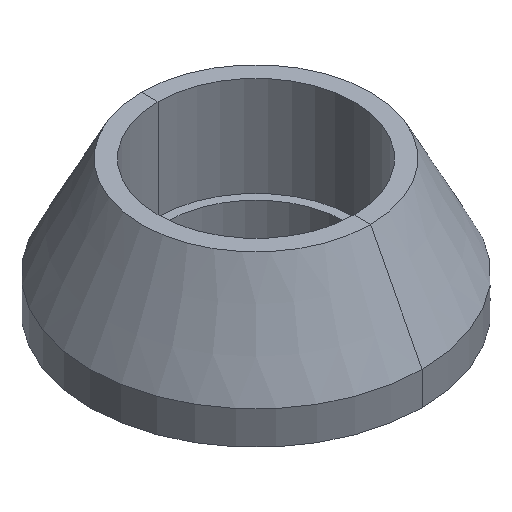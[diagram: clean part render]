
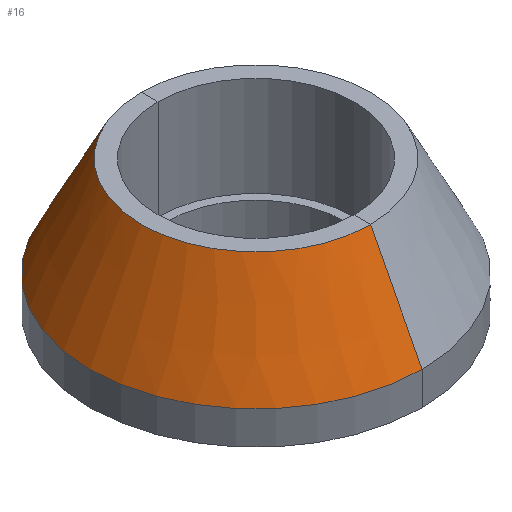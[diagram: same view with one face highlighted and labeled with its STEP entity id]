
A CAD part, isometric view. The second image highlights one B-rep face of the part: STEP entity #16.
In plain terms, the highlighted free-form (B-spline) face has degree [3, 2] with [4, 5] control points.
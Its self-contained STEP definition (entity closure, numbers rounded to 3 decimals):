
#16=ADVANCED_FACE('',(#28),#188,.T.);
#28=FACE_OUTER_BOUND('',#40,.T.);
#40=EDGE_LOOP('',(#54,#55,#56,#57));
#54=ORIENTED_EDGE('',*,*,#114,.T.);
#55=ORIENTED_EDGE('',*,*,#115,.T.);
#56=ORIENTED_EDGE('',*,*,#102,.F.);
#57=ORIENTED_EDGE('',*,*,#104,.T.);
#102=EDGE_CURVE('',#164,#165,#154,.T.);
#104=EDGE_CURVE('',#164,#171,#127,.T.);
#114=EDGE_CURVE('',#171,#172,#159,.T.);
#115=EDGE_CURVE('',#172,#165,#133,.T.);
#127=TRIMMED_CURVE($,#141,(#418),(#419),.T.,.CARTESIAN.);
#133=TRIMMED_CURVE($,#147,(#450),(#451),.T.,.CARTESIAN.);
#141=CIRCLE('',#289,3.45);
#147=CIRCLE('',#295,5.);
#154=(
BOUNDED_CURVE()
B_SPLINE_CURVE(3,(#410,#411,#412,#413),.UNSPECIFIED.,.F.,.F.)
B_SPLINE_CURVE_WITH_KNOTS((4,4),(0.,3.716),.UNSPECIFIED.)
CURVE()
GEOMETRIC_REPRESENTATION_ITEM()
RATIONAL_B_SPLINE_CURVE((1.,1.,1.,1.))
REPRESENTATION_ITEM('')
);
#159=(
BOUNDED_CURVE()
B_SPLINE_CURVE(3,(#445,#446,#447,#448),.UNSPECIFIED.,.F.,.F.)
B_SPLINE_CURVE_WITH_KNOTS((4,4),(0.,3.716),.UNSPECIFIED.)
CURVE()
GEOMETRIC_REPRESENTATION_ITEM()
RATIONAL_B_SPLINE_CURVE((1.,1.,1.,1.))
REPRESENTATION_ITEM('')
);
#164=VERTEX_POINT('',#396);
#165=VERTEX_POINT('',#397);
#171=VERTEX_POINT('',#403);
#172=VERTEX_POINT('',#404);
#188=(
BOUNDED_SURFACE()
B_SPLINE_SURFACE(3,2,((#346,#347,#348,#349,#350),(#351,#352,#353,#354,#355),
(#356,#357,#358,#359,#360),(#361,#362,#363,#364,#365)),.UNSPECIFIED.,.F.,
 .F.,.F.)
B_SPLINE_SURFACE_WITH_KNOTS((4,4),(3,2,3),(0.,3.716),(20.,30.,
40.),.UNSPECIFIED.)
GEOMETRIC_REPRESENTATION_ITEM()
RATIONAL_B_SPLINE_SURFACE(((1.,0.707,1.,0.707,1.),
(1.,0.707,1.,0.707,1.),(1.,0.707,1.,
0.707,1.),(1.,0.707,1.,0.707,1.)))
REPRESENTATION_ITEM('')
SURFACE()
);
#289=AXIS2_PLACEMENT_3D($,#417,#317,#318);
#295=AXIS2_PLACEMENT_3D($,#449,#329,#330);
#317=DIRECTION('',(0.,0.,-1.));
#318=DIRECTION('',(0.,-1.,0.));
#329=DIRECTION('',(0.,0.,1.));
#330=DIRECTION('',(0.,1.,0.));
#346=CARTESIAN_POINT('',(118.519,285.736,53.025));
#347=CARTESIAN_POINT('',(115.069,285.736,53.025));
#348=CARTESIAN_POINT('',(115.069,282.286,53.025));
#349=CARTESIAN_POINT('',(115.069,278.836,53.025));
#350=CARTESIAN_POINT('',(118.519,278.836,53.025));
#351=CARTESIAN_POINT('',(118.519,286.253,52.025));
#352=CARTESIAN_POINT('',(114.552,286.253,52.025));
#353=CARTESIAN_POINT('',(114.552,282.286,52.025));
#354=CARTESIAN_POINT('',(114.552,278.319,52.025));
#355=CARTESIAN_POINT('',(118.519,278.319,52.025));
#356=CARTESIAN_POINT('',(118.519,286.769,51.025));
#357=CARTESIAN_POINT('',(114.035,286.769,51.025));
#358=CARTESIAN_POINT('',(114.035,282.286,51.025));
#359=CARTESIAN_POINT('',(114.035,277.803,51.025));
#360=CARTESIAN_POINT('',(118.519,277.803,51.025));
#361=CARTESIAN_POINT('',(118.519,287.286,50.025));
#362=CARTESIAN_POINT('',(113.519,287.286,50.025));
#363=CARTESIAN_POINT('',(113.519,282.286,50.025));
#364=CARTESIAN_POINT('',(113.519,277.286,50.025));
#365=CARTESIAN_POINT('',(118.519,277.286,50.025));
#396=CARTESIAN_POINT('',(118.519,278.836,53.025));
#397=CARTESIAN_POINT('',(118.519,277.286,50.025));
#403=CARTESIAN_POINT('',(118.519,285.736,53.025));
#404=CARTESIAN_POINT('',(118.519,287.286,50.025));
#410=CARTESIAN_POINT('',(118.519,278.836,53.025));
#411=CARTESIAN_POINT('',(118.519,278.319,52.025));
#412=CARTESIAN_POINT('',(118.519,277.803,51.025));
#413=CARTESIAN_POINT('',(118.519,277.286,50.025));
#417=CARTESIAN_POINT('',(118.519,282.286,53.025));
#418=CARTESIAN_POINT('',(118.519,278.836,53.025));
#419=CARTESIAN_POINT('',(118.519,285.736,53.025));
#445=CARTESIAN_POINT('',(118.519,285.736,53.025));
#446=CARTESIAN_POINT('',(118.519,286.253,52.025));
#447=CARTESIAN_POINT('',(118.519,286.769,51.025));
#448=CARTESIAN_POINT('',(118.519,287.286,50.025));
#449=CARTESIAN_POINT('',(118.519,282.286,50.025));
#450=CARTESIAN_POINT('',(118.519,287.286,50.025));
#451=CARTESIAN_POINT('',(118.519,277.286,50.025));
